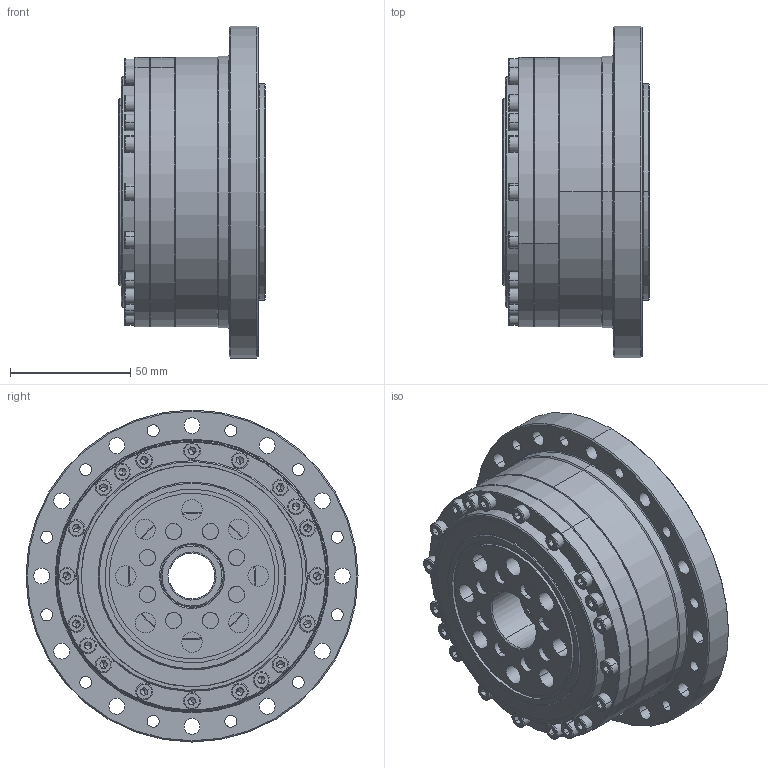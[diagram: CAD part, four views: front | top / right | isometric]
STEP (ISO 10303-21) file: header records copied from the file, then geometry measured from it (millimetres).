
FILE_DESCRIPTION (( 'STEP AP203' ), '1' );
FILE_NAME ('LCSG-32-XXX-C-I-S0.STEP', '2017-03-02T02:41:54', ( 'Windows 蚚誧' ), ( 'Users' ), 'SwSTEP 2.0', 'SolidWorks 2013', '' );
FILE_SCHEMA (( 'CONFIG_CONTROL_DESIGN' ));
Length unit declared in the file: millimetre
Products named in the file (16): RZC-32G内外圈+钢球; LCSG-32-XXX-P04-I; RZC-32悵厥殤; 15Z-78926; 柔性轴承RZC-32G; LCSG-32-XXX-P05-I; countersunk flat head cross recess screw_din_ISO 7046-1 - M3 x 6 - Z --- 6C; socket head cap screw_din_DIN 912 M8 x 25 --- 25N; 疏楷汜ん-32G-I; socket head cap screw_din_内六角圆柱头螺钉M4 x 25; LCSG-32-XXX-C-I-S0; socket head cap screw_din_内六角圆柱头螺钉M4 x 16; LCSG-32-XXX-P03-I; LCSG-32-XXX-P01-I; DB-32G-I; LCSG-32-XXX-P02-I
Assembly tree (43 placements, depth 4):
  LCSG-32-XXX-C-I-S0
    LCSG-32-XXX-P01-I
    LCSG-32-XXX-P02-I
    LCSG-32-XXX-P04-I
    15Z-78926
    LCSG-32-XXX-P05-I
    socket head cap screw_din_DIN 912 M8 x 25 --- 25N  x8
    socket head cap screw_din_内六角圆柱头螺钉M4 x 25  x16
    socket head cap screw_din_内六角圆柱头螺钉M4 x 16  x4
    疏楷汜ん-32G-I
      LCSG-32-XXX-P03-I
      DB-32G-I
      柔性轴承RZC-32G
        RZC-32G内外圈+钢球
        RZC-32悵厥殤
      countersunk flat head cross recess screw_din_ISO 7046-1 - M3 x 6 - Z --- 6C  x4
Bounding box: 61 x 138 x 138 mm (x, y, z)
Volume: 420056.2 mm3; surface area: 209644.6 mm2
Topology: 66 solids, 67 shells, 1599 faces, 3752 edges, 2253 vertices
Faces by surface type: plane 613, cylinder 528, cone 254, torus 158, sphere 46
Entity records: 26291 total; most frequent: DIRECTION 4716, CARTESIAN_POINT 3950, ORIENTED_EDGE 3730, AXIS2_PLACEMENT_3D 2015, EDGE_CURVE 1865, VERTEX_POINT 1197, CIRCLE 1166, EDGE_LOOP 1064
